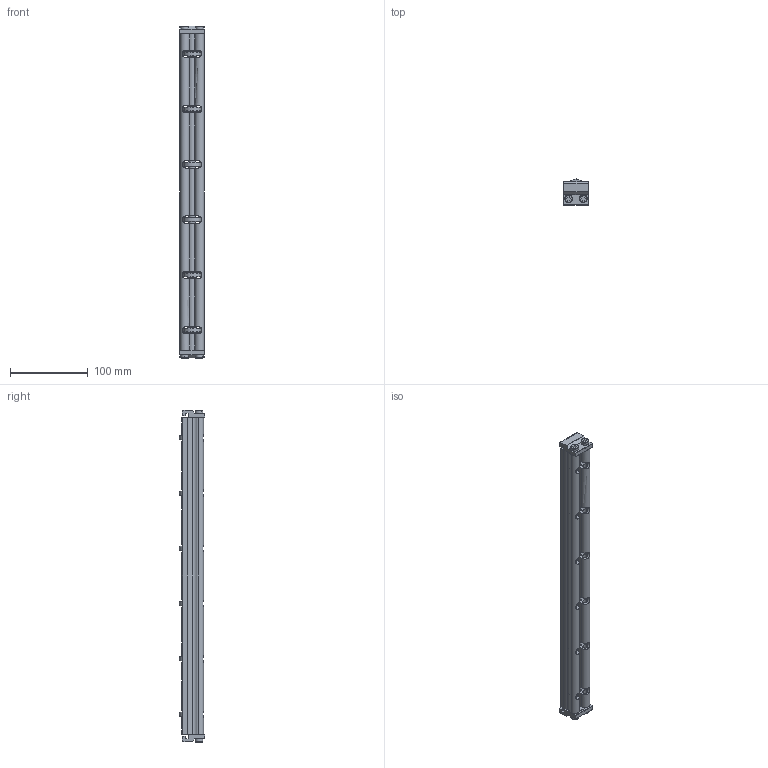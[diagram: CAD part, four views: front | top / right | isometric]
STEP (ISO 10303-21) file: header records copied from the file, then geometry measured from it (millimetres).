
FILE_DESCRIPTION((''),'2;1');
FILE_NAME('206523-16_ASM','2023-02-27T',('jenni.wallner'),(''),'PRO/ENGINEER BY PARAMETRIC TECHNOLOGY CORPORATION, 2012420','PRO/ENGINEER BY PARAMETRIC TECHNOLOGY CORPORATION, 2012420','');
FILE_SCHEMA(('CONFIG_CONTROL_DESIGN'));
Length unit declared in the file: inch
Products named in the file (7): 205977_205978_205979_205978; 9506XXM_950616M; 240826; 2436WW_243616; 2410WW_241016; ASM0001_ASM; 206523-16_ASM
Assembly tree (15 placements, depth 3):
  206523-16_ASM
    ASM0001_ASM
      205977_205978_205979_205978  x2
      9506XXM_950616M  x4
      240826  x6
      2436WW_243616
      2410WW_241016
Bounding box: 30.89 x 33.01 x 426.95 mm (x, y, z)
Volume: 204846.4 mm3; surface area: 123979.1 mm2
Topology: 14 solids, 14 shells, 464 faces, 1282 edges, 842 vertices
Faces by surface type: cylinder 206, plane 166, cone 68, torus 24
Entity records: 10871 total; most frequent: CARTESIAN_POINT 2612, DIRECTION 1755, ORIENTED_EDGE 1746, EDGE_CURVE 873, AXIS2_PLACEMENT_3D 669, VERTEX_POINT 580, VECTOR 417, LINE 417
